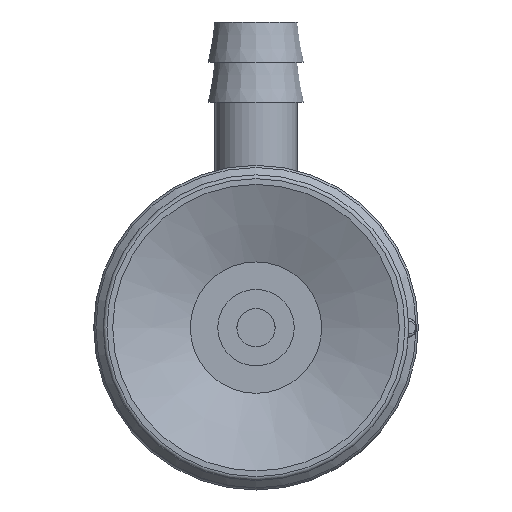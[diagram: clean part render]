
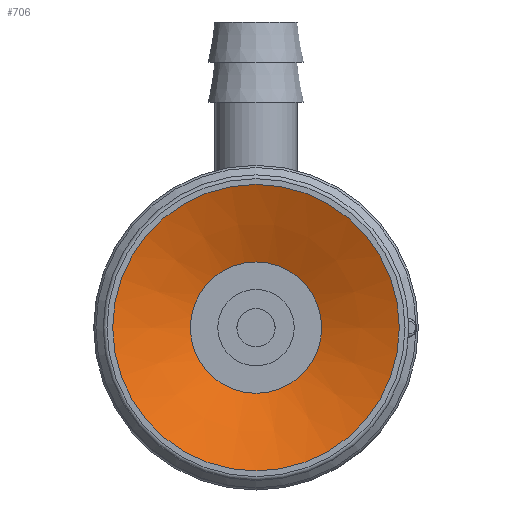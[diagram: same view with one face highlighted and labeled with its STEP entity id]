
A CAD part, front view. The second image highlights one B-rep face of the part: STEP entity #706.
In plain terms, the highlighted conical face has half-angle 67.5 degrees and reference radius 3.437 mm.
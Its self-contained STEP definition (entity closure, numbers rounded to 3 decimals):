
#706=ADVANCED_FACE('',(#1014,#1015),#1016,.F.);
#1014=FACE_BOUND('',#2376,.T.);
#1015=FACE_OUTER_BOUND('',#2377,.T.);
#1016=CONICAL_SURFACE('',#2378,3.437,1.178);
#2376=EDGE_LOOP('',(#3157));
#2377=EDGE_LOOP('',(#3158));
#2378=AXIS2_PLACEMENT_3D('',#3159,#3160,#3161);
#3157=ORIENTED_EDGE('',*,*,#3514,.F.);
#3158=ORIENTED_EDGE('',*,*,#3518,.T.);
#3159=CARTESIAN_POINT('',(0.0,0.0,1.683));
#3160=DIRECTION('',(0.0,0.,-1.0));
#3161=DIRECTION('',(0.0,1.0,0.));
#3514=EDGE_CURVE('',#3893,#3893,#3894,.T.);
#3518=EDGE_CURVE('',#3901,#3901,#3902,.T.);
#3893=VERTEX_POINT('',#4894);
#3894=CIRCLE('',#4895,3.437);
#3901=VERTEX_POINT('',#4902);
#3902=CIRCLE('',#4903,7.5);
#4894=CARTESIAN_POINT('',(-3.437,0.0,1.683));
#4895=AXIS2_PLACEMENT_3D('',#5273,#5274,#5275);
#4902=CARTESIAN_POINT('',(-7.5,0.0,0.));
#4903=AXIS2_PLACEMENT_3D('',#5285,#5286,#5287);
#5273=CARTESIAN_POINT('',(0.0,0.0,1.683));
#5274=DIRECTION('',(0.0,0.,-1.0));
#5275=DIRECTION('',(0.0,1.0,0.));
#5285=CARTESIAN_POINT('',(0.0,0.0,0.));
#5286=DIRECTION('',(0.0,0.,-1.0));
#5287=DIRECTION('',(0.0,1.0,0.));
